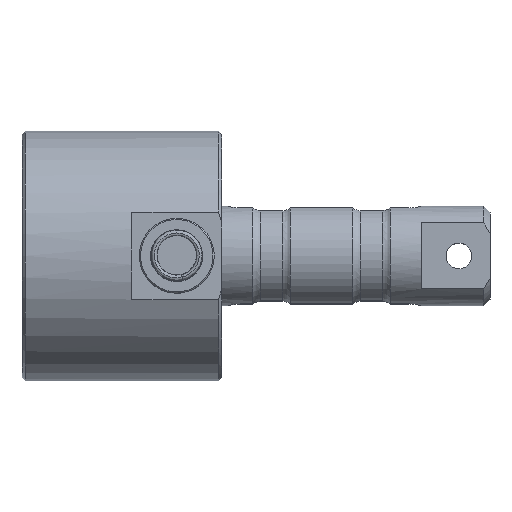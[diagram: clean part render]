
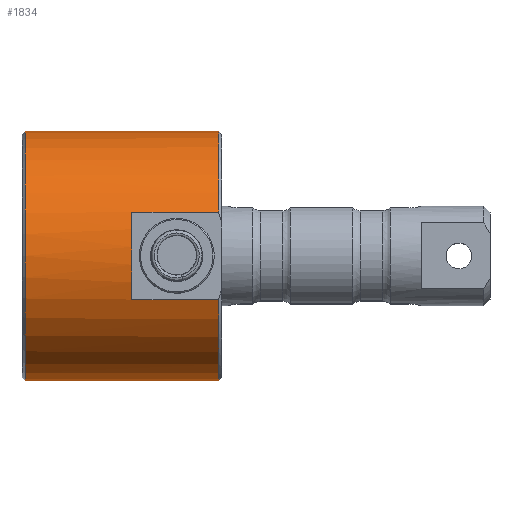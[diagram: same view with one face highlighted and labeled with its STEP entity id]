
A CAD part, top view. The second image highlights one B-rep face of the part: STEP entity #1834.
In plain terms, the highlighted cylindrical face has radius 10 mm (diameter 20 mm), a full revolution.
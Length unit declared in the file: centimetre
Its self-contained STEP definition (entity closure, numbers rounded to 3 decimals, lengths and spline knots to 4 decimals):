
#723=VECTOR('',#2091,1.);
#725=VECTOR('',#2093,1.);
#779=LINE('',#2538,#723);
#781=LINE('',#2542,#725);
#882=VERTEX_POINT('',#2526);
#885=VERTEX_POINT('',#2533);
#887=VERTEX_POINT('',#2539);
#888=VERTEX_POINT('',#2541);
#889=VERTEX_POINT('',#2546);
#996=CIRCLE('',#1929,1.);
#998=CIRCLE('',#1933,1.);
#999=CIRCLE('',#1934,1.);
#1076=EDGE_CURVE('',#885,#882,#996,.T.);
#1078=EDGE_CURVE('',#887,#882,#779,.T.);
#1080=EDGE_CURVE('',#885,#888,#781,.T.);
#1082=EDGE_CURVE('',#889,#889,#998,.T.);
#1083=EDGE_CURVE('',#888,#887,#999,.T.);
#1293=ORIENTED_EDGE('',*,*,#1082,.F.);
#1294=ORIENTED_EDGE('',*,*,#1076,.F.);
#1295=ORIENTED_EDGE('',*,*,#1080,.T.);
#1296=ORIENTED_EDGE('',*,*,#1083,.T.);
#1297=ORIENTED_EDGE('',*,*,#1078,.T.);
#1620=EDGE_LOOP('',(#1293));
#1621=EDGE_LOOP('',(#1294,#1295,#1296,#1297));
#1730=FACE_BOUND('',#1620,.T.);
#1731=FACE_BOUND('',#1621,.T.);
#1834=ADVANCED_FACE('',(#1730,#1731),#14977,.T.);
#1929=AXIS2_PLACEMENT_3D('',#2534,#2086,#2087);
#1932=AXIS2_PLACEMENT_3D('',#2544,#2095,#2096);
#1933=AXIS2_PLACEMENT_3D('',#2545,#2097,#2098);
#1934=AXIS2_PLACEMENT_3D('',#2547,#2099,#2100);
#2086=DIRECTION('',(1.,0.,0.));
#2087=DIRECTION('',(0.,0.,-1.));
#2091=DIRECTION('',(1.,0.,0.));
#2093=DIRECTION('',(-1.,0.,0.));
#2095=DIRECTION('',(1.,0.,0.));
#2096=DIRECTION('',(0.,0.,-1.));
#2097=DIRECTION('',(-1.,0.,0.));
#2098=DIRECTION('',(0.,0.,1.));
#2099=DIRECTION('',(-1.,0.,0.));
#2100=DIRECTION('',(0.,0.,-1.));
#2526=CARTESIAN_POINT('',(1.575,0.3506,0.9365));
#2533=CARTESIAN_POINT('',(1.575,-0.3506,0.9365));
#2534=CARTESIAN_POINT('',(1.575,0.,0.));
#2538=CARTESIAN_POINT('',(1.24,0.3506,0.9365));
#2539=CARTESIAN_POINT('',(0.88,0.3506,0.9365));
#2541=CARTESIAN_POINT('',(0.88,-0.3506,0.9365));
#2542=CARTESIAN_POINT('',(1.24,-0.3506,0.9365));
#2544=CARTESIAN_POINT('',(0.8,0.,0.));
#2545=CARTESIAN_POINT('',(0.025,0.,0.));
#2546=CARTESIAN_POINT('',(0.025,0.,-1.));
#2547=CARTESIAN_POINT('',(0.88,0.,0.));
#14977=CYLINDRICAL_SURFACE('',#1932,1.);
